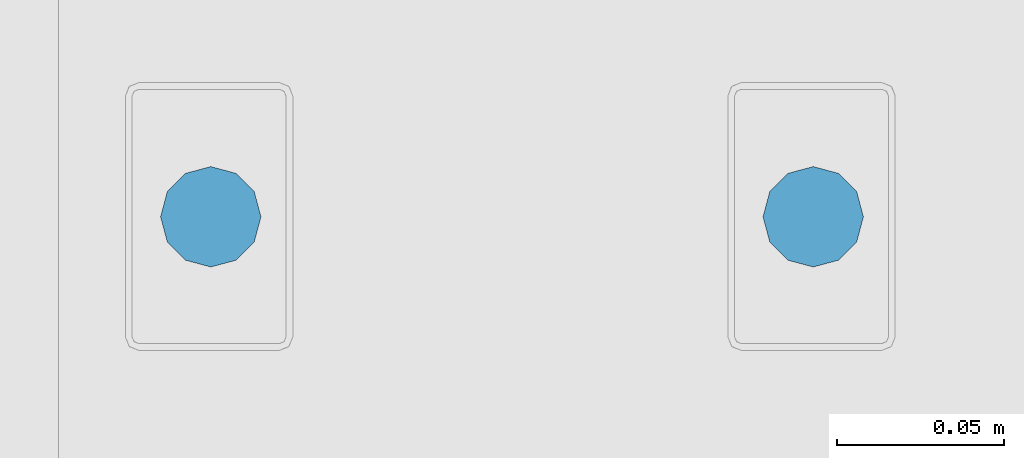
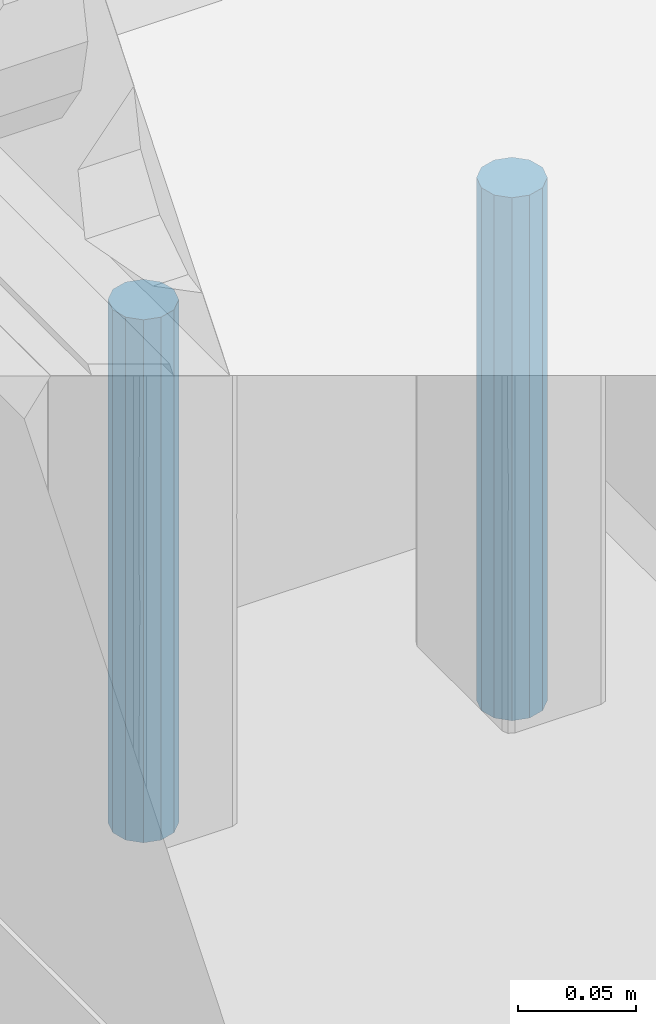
# One storey, part 200 of 230: 2 beams.
"""IFC4X3_ADD2 building model written with IfcOpenShell, lengths in millimetres."""

from ifc_helpers import new_model, si_unit, direction, origin_with_axes, place, context, subcontext, project, spatial, polygons, element, save


model = new_model("IFC4X3_ADD2")

# Units and contexts
model_context = context("Model", 3, precision=1e-05, world=origin_with_axes(), true_north=direction((0.0, 1.0)))
body_context = subcontext(model_context, "Body", "Model", "MODEL_VIEW")
ifc_project = project(units=[si_unit("LENGTHUNIT", "METRE", prefix="MILLI"), si_unit("AREAUNIT", "SQUARE_METRE"), si_unit("VOLUMEUNIT", "CUBIC_METRE"), si_unit("PLANEANGLEUNIT", "RADIAN"), si_unit("TIMEUNIT", "SECOND"), si_unit("MASSUNIT", "GRAM")], contexts=[model_context])

# Site, building, storey
site_placement = place(None, origin_with_axes())
site = spatial("IfcSite", under=ifc_project, at=site_placement, Name="Site", CompositionType="ELEMENT")
building_placement = place(site_placement, origin_with_axes())
building = spatial("IfcBuilding", under=site, at=building_placement, Name="IFC Building Story")
storey_placement = place(building_placement, origin_with_axes())
storey = spatial("IfcBuildingStorey", under=building, at=storey_placement, Name="ETAGE 00 (0)", Elevation=0.0)

# Beams
beam_1_placement = place(storey_placement, origin_with_axes())
element("IfcBeam", 1, at=beam_1_placement, inside=storey, Name="SD11", ObjectType="D30", context=body_context, shape_type="Tessellation", body=[
    polygons([(48386.1886362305, 12000.0006109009, 3960.0), (48386.1886362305, 12000.0006109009, 3690.0), (48388.19825517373, 11992.5006109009, 3690.0), (48388.19825517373, 11992.5006109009, 3960.0), (48393.6886362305, 11987.01022984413, 3690.0), (48393.6886362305, 11987.01022984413, 3960.0), (48401.18863623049, 11985.0006109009, 3690.0), (48401.18863623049, 11985.0006109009, 3960.0), (48408.68863623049, 11987.01022984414, 3690.0), (48408.68863623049, 11987.01022984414, 3960.0), (48414.17901728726, 11992.5006109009, 3690.0), (48414.17901728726, 11992.5006109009, 3960.0), (48416.1886362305, 12000.0006109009, 3690.0), (48416.1886362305, 12000.0006109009, 3960.0), (48414.17901728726, 12007.50061090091, 3690.0), (48414.17901728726, 12007.50061090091, 3960.0), (48408.68863623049, 12012.99099195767, 3690.0), (48408.68863623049, 12012.99099195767, 3960.0), (48401.18863623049, 12015.0006109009, 3690.0), (48401.18863623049, 12015.0006109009, 3960.0), (48393.6886362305, 12012.99099195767, 3690.0), (48393.6886362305, 12012.99099195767, 3960.0), (48388.19825517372, 12007.5006109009, 3690.0), (48388.19825517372, 12007.5006109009, 3960.0)], [[[1, 2, 3, 4]], [[4, 3, 5, 6]], [[6, 5, 7, 8]], [[8, 7, 9, 10]], [[10, 9, 11, 12]], [[12, 11, 13, 14]], [[14, 13, 15, 16]], [[16, 15, 17, 18]], [[18, 17, 19, 20]], [[20, 19, 21, 22]], [[22, 21, 23, 24]], [[24, 23, 2, 1]], [[4, 6, 8]], [[4, 8, 10]], [[4, 10, 12]], [[4, 12, 14]], [[4, 14, 16]], [[4, 16, 18]], [[4, 18, 20]], [[4, 20, 22]], [[4, 22, 24]], [[4, 24, 1]], [[2, 23, 21]], [[2, 21, 19]], [[2, 19, 17]], [[2, 17, 15]], [[2, 15, 13]], [[2, 13, 11]], [[2, 11, 9]], [[2, 9, 7]], [[2, 7, 5]], [[2, 5, 3]]]),
])
beam_2_placement = place(storey_placement, origin_with_axes())
element("IfcBeam", 2, at=beam_2_placement, inside=storey, Name="SD11", ObjectType="D30", context=body_context, shape_type="Tessellation", body=[
    polygons([(48206.1886362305, 12000.0006109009, 3960.0), (48206.1886362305, 12000.0006109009, 3690.0), (48208.19825517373, 11992.5006109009, 3690.0), (48208.19825517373, 11992.5006109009, 3960.0), (48213.6886362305, 11987.01022984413, 3690.0), (48213.6886362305, 11987.01022984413, 3960.0), (48221.18863623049, 11985.0006109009, 3690.0), (48221.18863623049, 11985.0006109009, 3960.0), (48228.68863623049, 11987.01022984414, 3690.0), (48228.68863623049, 11987.01022984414, 3960.0), (48234.17901728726, 11992.5006109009, 3690.0), (48234.17901728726, 11992.5006109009, 3960.0), (48236.1886362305, 12000.0006109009, 3690.0), (48236.1886362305, 12000.0006109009, 3960.0), (48234.17901728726, 12007.50061090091, 3690.0), (48234.17901728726, 12007.50061090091, 3960.0), (48228.68863623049, 12012.99099195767, 3690.0), (48228.68863623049, 12012.99099195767, 3960.0), (48221.18863623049, 12015.0006109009, 3690.0), (48221.18863623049, 12015.0006109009, 3960.0), (48213.6886362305, 12012.99099195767, 3690.0), (48213.6886362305, 12012.99099195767, 3960.0), (48208.19825517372, 12007.5006109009, 3690.0), (48208.19825517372, 12007.5006109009, 3960.0)], [[[1, 2, 3, 4]], [[4, 3, 5, 6]], [[6, 5, 7, 8]], [[8, 7, 9, 10]], [[10, 9, 11, 12]], [[12, 11, 13, 14]], [[14, 13, 15, 16]], [[16, 15, 17, 18]], [[18, 17, 19, 20]], [[20, 19, 21, 22]], [[22, 21, 23, 24]], [[24, 23, 2, 1]], [[4, 6, 8]], [[4, 8, 10]], [[4, 10, 12]], [[4, 12, 14]], [[4, 14, 16]], [[4, 16, 18]], [[4, 18, 20]], [[4, 20, 22]], [[4, 22, 24]], [[4, 24, 1]], [[2, 23, 21]], [[2, 21, 19]], [[2, 19, 17]], [[2, 17, 15]], [[2, 15, 13]], [[2, 13, 11]], [[2, 11, 9]], [[2, 9, 7]], [[2, 7, 5]], [[2, 5, 3]]]),
])

save(model, "model.ifc")
